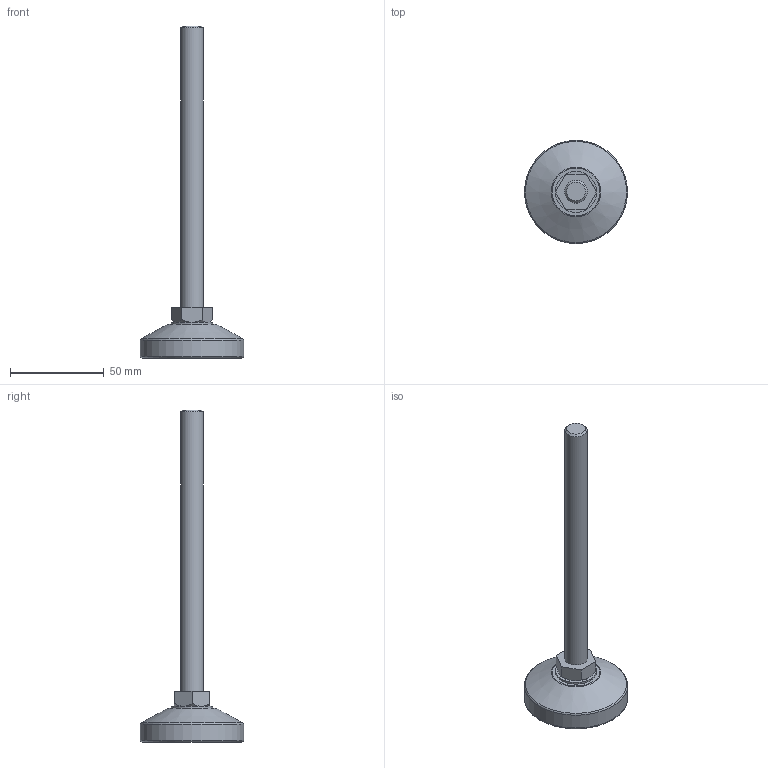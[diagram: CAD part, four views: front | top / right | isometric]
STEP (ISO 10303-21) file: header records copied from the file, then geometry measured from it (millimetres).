
FILE_DESCRIPTION(/* description */ (''),/* implementation_level */ '2;1');
FILE_NAME(/* name */ 'D:\조절자\F\F-M12-150L.stp',/* time_stamp */ '2016-03-14T14:34:22+09:00',/* author */ ('GS-DT-1-001'),/* organization */ (''),/* preprocessor_version */ 'ST-DEVELOPER v15.6',/* originating_system */ 'Autodesk Inventor LT ',/* authorisation */ '');
FILE_SCHEMA (('AUTOMOTIVE_DESIGN { 1 0 10303 214 3 1 1 }'));
Length unit declared in the file: millimetre
Products named in the file (1): F-M12-150L
Bounding box: 55 x 55 x 177 mm (x, y, z)
Volume: 43653.4 mm3; surface area: 15622.1 mm2
Topology: 3 solids, 3 shells, 36 faces, 66 edges, 41 vertices
Faces by surface type: plane 17, cylinder 9, cone 6, torus 4
Full cylindrical faces by diameter (mm): 5.153 x1, 6.1 x1, 6.2 x1, 12 x1, 22 x1, 35 x1, 46 x1, 50 x1, 55 x1
Entity records: 806 total; most frequent: DIRECTION 142, CARTESIAN_POINT 135, ORIENTED_EDGE 92, AXIS2_PLACEMENT_3D 65, EDGE_LOOP 64, EDGE_CURVE 46, VERTEX_POINT 40, FACE_OUTER_BOUND 36
